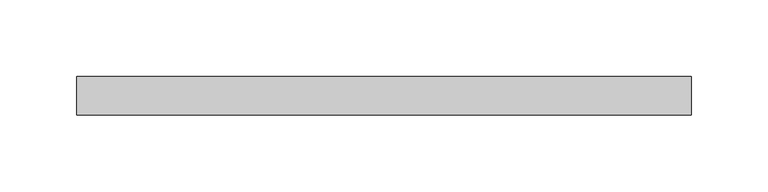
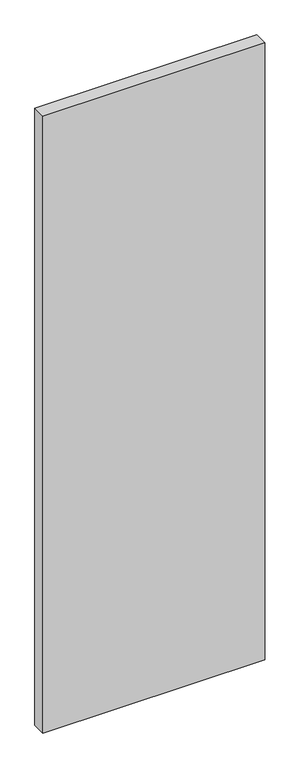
"""IFC4 building model written with IfcOpenShell, lengths in millimetres: plate geometry, Системная панель : С остеклением."""

from ifc_helpers import new_model, si_unit, origin, origin_with_axes, place, context, project, spatial, polyline, outline, extrude, source, transform, mapped, element, save


def plate_5b721687(model_context):
    return source(origin(), model_context, "Body", "SweptSolid", [
        extrude(outline(polyline([(199.9999998, 24.5), (-199.9999998, 24.5), (-199.9999998, 49.5), (199.9999998, 49.5), (199.9999998, 24.5)])), origin_with_axes(), (0.0, 0.0, 1.0), 1175.0),
    ])


if __name__ == "__main__":
    model = new_model("IFC4")
    model_context = context("Model", 3, world=origin())
    ifc_project = project(units=[si_unit("LENGTHUNIT", "METRE", prefix="MILLI")], contexts=[model_context])
    site = spatial("IfcSite", under=ifc_project)
    building = spatial("IfcBuilding", under=site)
    placement = place(None, origin())
    plate_shape = plate_5b721687(model_context)
    element("IfcPlate", 1, ObjectType="Системная панель : С остеклением", at=placement, inside=building, context=model_context, shape_type="MappedRepresentation", body=[
        mapped(plate_shape, transform((0.0, 0.0, 0.0), x_axis=(1.0, 0.0, 0.0), y_axis=(0.0, 1.0, 0.0), z_axis=(0.0, 0.0, 1.0))),
    ])
    save(model, "model.ifc")
